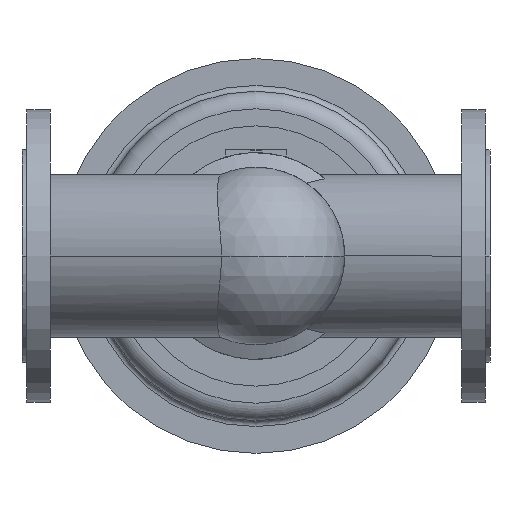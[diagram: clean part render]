
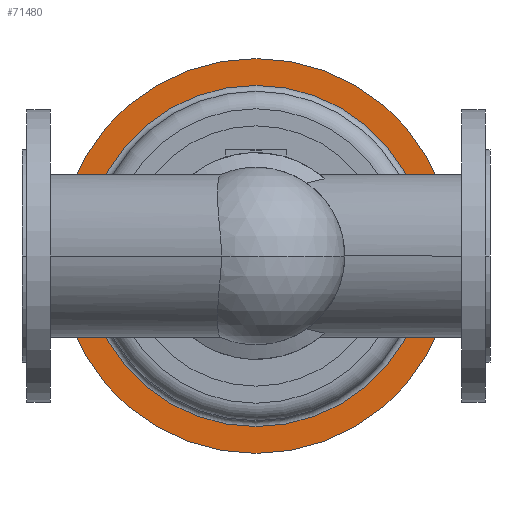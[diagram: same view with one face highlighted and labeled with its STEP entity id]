
A CAD part, front view. The second image highlights one B-rep face of the part: STEP entity #71480.
In plain terms, the highlighted planar face has unit normal (0, -1, 0).
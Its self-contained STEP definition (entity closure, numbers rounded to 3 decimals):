
#56090=CARTESIAN_POINT('',(37.5,981.2,0.));
#56100=VERTEX_POINT('',#56090);
#56130=CARTESIAN_POINT('',(240.,981.2,0.));
#56140=DIRECTION('',(0.,1.,0.));
#56150=DIRECTION('',(1.,0.,0.));
#56160=AXIS2_PLACEMENT_3D('',#56130,#56140,#56150);
#56170=CIRCLE('',#56160,202.5);
#56180=CARTESIAN_POINT('',(442.5,981.2,0.));
#56190=VERTEX_POINT('',#56180);
#56200=EDGE_CURVE('',#56190,#56100,#56170,.T.);
#56520=CARTESIAN_POINT('',(240.,981.2,0.));
#56530=DIRECTION('',(0.,1.,0.));
#56540=DIRECTION('',(1.,0.,0.));
#56550=AXIS2_PLACEMENT_3D('',#56520,#56530,#56540);
#56560=CIRCLE('',#56550,175.);
#56570=CARTESIAN_POINT('',(240.,981.2,-175.));
#56580=VERTEX_POINT('',#56570);
#56590=CARTESIAN_POINT('',(65.,981.2,0.));
#56600=VERTEX_POINT('',#56590);
#56610=EDGE_CURVE('',#56580,#56600,#56560,.T.);
#56860=CARTESIAN_POINT('',(415.,981.2,0.));
#56870=VERTEX_POINT('',#56860);
#56900=EDGE_CURVE('',#56870,#56580,#56560,.T.);
#71320=CARTESIAN_POINT('',(428.75,981.2,0.));
#71330=DIRECTION('',(0.,-1.,0.));
#71340=DIRECTION('',(-1.,0.,0.));
#71350=AXIS2_PLACEMENT_3D('',#71320,#71330,#71340);
#71360=PLANE('',#71350);
#71370=ORIENTED_EDGE('',*,*,#56200,.F.);
#71380=EDGE_CURVE('',#56100,#56190,#56170,.T.);
#71390=ORIENTED_EDGE('',*,*,#71380,.F.);
#71400=EDGE_LOOP('',(#71390,#71370));
#71410=FACE_OUTER_BOUND('',#71400,.T.);
#71420=EDGE_CURVE('',#56600,#56870,#56560,.T.);
#71430=ORIENTED_EDGE('',*,*,#71420,.T.);
#71440=ORIENTED_EDGE('',*,*,#56610,.T.);
#71450=ORIENTED_EDGE('',*,*,#56900,.T.);
#71460=EDGE_LOOP('',(#71450,#71440,#71430));
#71470=FACE_BOUND('',#71460,.T.);
#71480=ADVANCED_FACE('',(#71410,#71470),#71360,.T.);
